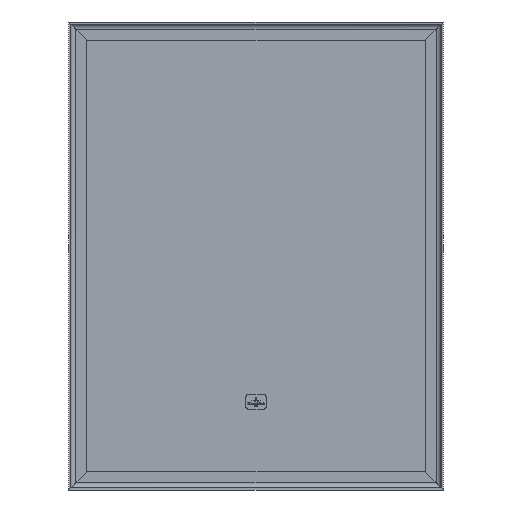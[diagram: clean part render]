
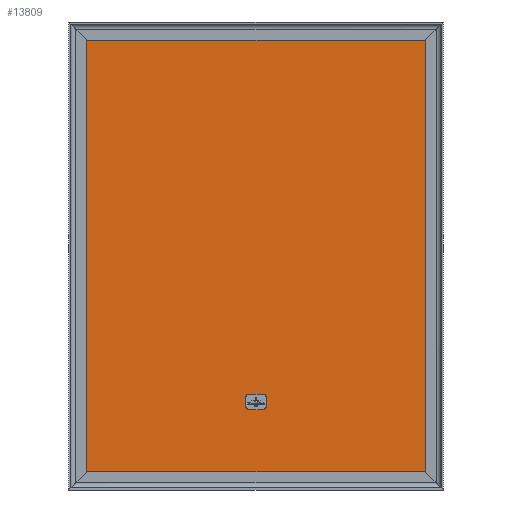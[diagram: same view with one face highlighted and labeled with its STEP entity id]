
A CAD part, front view. The second image highlights one B-rep face of the part: STEP entity #13809.
In plain terms, the highlighted planar face has unit normal (0, -1, 0).
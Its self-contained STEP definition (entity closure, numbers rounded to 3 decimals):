
#224=LINE('',#20070,#1799);
#242=LINE('',#20108,#1817);
#246=LINE('',#20114,#1821);
#247=LINE('',#20116,#1822);
#248=LINE('',#20119,#1823);
#249=LINE('',#20123,#1824);
#250=LINE('',#20127,#1825);
#251=LINE('',#20131,#1826);
#1799=VECTOR('',#16057,691.);
#1817=VECTOR('',#16091,691.);
#1821=VECTOR('',#16099,542.);
#1822=VECTOR('',#16102,542.);
#1823=VECTOR('',#16103,23.571);
#1824=VECTOR('',#16106,15.086);
#1825=VECTOR('',#16109,23.571);
#1826=VECTOR('',#16112,15.086);
#3327=PLANE('',#14677);
#3899=FACE_BOUND('',#4920,.T.);
#4093=FACE_OUTER_BOUND('',#4919,.T.);
#4919=EDGE_LOOP('',(#9826,#9827,#9828,#9829));
#4920=EDGE_LOOP('',(#9830,#9831,#9832,#9833,#9834,#9835,#9836,#9837));
#5819=CIRCLE('',#14678,4.714);
#5820=CIRCLE('',#14679,4.714);
#5821=CIRCLE('',#14680,4.714);
#5822=CIRCLE('',#14681,4.714);
#6268=VERTEX_POINT('',#20064);
#6270=VERTEX_POINT('',#20068);
#6280=VERTEX_POINT('',#20104);
#6282=VERTEX_POINT('',#20107);
#6283=VERTEX_POINT('',#20117);
#6284=VERTEX_POINT('',#20118);
#6285=VERTEX_POINT('',#20120);
#6286=VERTEX_POINT('',#20122);
#6287=VERTEX_POINT('',#20124);
#6288=VERTEX_POINT('',#20126);
#6289=VERTEX_POINT('',#20128);
#6290=VERTEX_POINT('',#20130);
#7662=EDGE_CURVE('',#6270,#6268,#224,.T.);
#7680=EDGE_CURVE('',#6280,#6282,#242,.T.);
#7684=EDGE_CURVE('',#6282,#6270,#246,.T.);
#7685=EDGE_CURVE('',#6268,#6280,#247,.T.);
#7686=EDGE_CURVE('',#6283,#6284,#248,.T.);
#7687=EDGE_CURVE('',#6284,#6285,#5819,.T.);
#7688=EDGE_CURVE('',#6285,#6286,#249,.T.);
#7689=EDGE_CURVE('',#6286,#6287,#5820,.T.);
#7690=EDGE_CURVE('',#6287,#6288,#250,.T.);
#7691=EDGE_CURVE('',#6288,#6289,#5821,.T.);
#7692=EDGE_CURVE('',#6289,#6290,#251,.T.);
#7693=EDGE_CURVE('',#6290,#6283,#5822,.T.);
#9826=ORIENTED_EDGE('',*,*,#7684,.F.);
#9827=ORIENTED_EDGE('',*,*,#7680,.F.);
#9828=ORIENTED_EDGE('',*,*,#7685,.F.);
#9829=ORIENTED_EDGE('',*,*,#7662,.F.);
#9830=ORIENTED_EDGE('',*,*,#7686,.T.);
#9831=ORIENTED_EDGE('',*,*,#7687,.T.);
#9832=ORIENTED_EDGE('',*,*,#7688,.T.);
#9833=ORIENTED_EDGE('',*,*,#7689,.T.);
#9834=ORIENTED_EDGE('',*,*,#7690,.T.);
#9835=ORIENTED_EDGE('',*,*,#7691,.T.);
#9836=ORIENTED_EDGE('',*,*,#7692,.T.);
#9837=ORIENTED_EDGE('',*,*,#7693,.T.);
#13809=ADVANCED_FACE('',(#4093,#3899),#3327,.T.);
#14677=AXIS2_PLACEMENT_3D('',#20115,#16100,#16101);
#14678=AXIS2_PLACEMENT_3D('',#20121,#16104,#16105);
#14679=AXIS2_PLACEMENT_3D('',#20125,#16107,#16108);
#14680=AXIS2_PLACEMENT_3D('',#20129,#16110,#16111);
#14681=AXIS2_PLACEMENT_3D('',#20132,#16113,#16114);
#16057=DIRECTION('',(0.,0.,1.));
#16091=DIRECTION('',(0.,0.,-1.));
#16099=DIRECTION('',(-1.,0.,0.));
#16100=DIRECTION('center_axis',(0.,-1.,0.));
#16101=DIRECTION('ref_axis',(1.,0.,0.));
#16102=DIRECTION('',(1.,0.,0.));
#16103=DIRECTION('',(1.,0.,0.));
#16104=DIRECTION('center_axis',(0.,1.,0.));
#16105=DIRECTION('ref_axis',(1.,0.,0.));
#16106=DIRECTION('',(0.,0.,-1.));
#16107=DIRECTION('center_axis',(0.,1.,0.));
#16108=DIRECTION('ref_axis',(0.,0.,-1.));
#16109=DIRECTION('',(-1.,0.,0.));
#16110=DIRECTION('center_axis',(0.,1.,0.));
#16111=DIRECTION('ref_axis',(-1.,0.,0.));
#16112=DIRECTION('',(0.,0.,1.));
#16113=DIRECTION('center_axis',(0.,1.,0.));
#16114=DIRECTION('ref_axis',(0.,0.,1.));
#20064=CARTESIAN_POINT('',(-271.,5.75,720.5));
#20068=CARTESIAN_POINT('',(-271.,5.75,29.5));
#20070=CARTESIAN_POINT('',(-271.,5.75,202.));
#20104=CARTESIAN_POINT('',(271.,5.75,720.5));
#20107=CARTESIAN_POINT('',(271.,5.75,29.5));
#20108=CARTESIAN_POINT('',(271.,5.75,548.));
#20114=CARTESIAN_POINT('',(85.75,5.75,29.5));
#20115=CARTESIAN_POINT('Origin',(-75.086,5.75,141.098));
#20116=CARTESIAN_POINT('',(-285.75,5.75,720.5));
#20117=CARTESIAN_POINT('',(-11.786,5.75,153.514));
#20118=CARTESIAN_POINT('',(11.786,5.75,153.514));
#20119=CARTESIAN_POINT('',(-43.436,5.75,153.514));
#20120=CARTESIAN_POINT('',(16.5,5.75,148.8));
#20121=CARTESIAN_POINT('Origin',(11.786,5.75,148.8));
#20122=CARTESIAN_POINT('',(16.5,5.75,133.714));
#20123=CARTESIAN_POINT('',(16.5,5.75,144.949));
#20124=CARTESIAN_POINT('',(11.786,5.75,129.));
#20125=CARTESIAN_POINT('Origin',(11.786,5.75,133.714));
#20126=CARTESIAN_POINT('',(-11.786,5.75,129.));
#20127=CARTESIAN_POINT('',(-31.65,5.75,129.));
#20128=CARTESIAN_POINT('',(-16.5,5.75,133.714));
#20129=CARTESIAN_POINT('Origin',(-11.786,5.75,133.714));
#20130=CARTESIAN_POINT('',(-16.5,5.75,148.8));
#20131=CARTESIAN_POINT('',(-16.5,5.75,137.406));
#20132=CARTESIAN_POINT('Origin',(-11.786,5.75,148.8));
